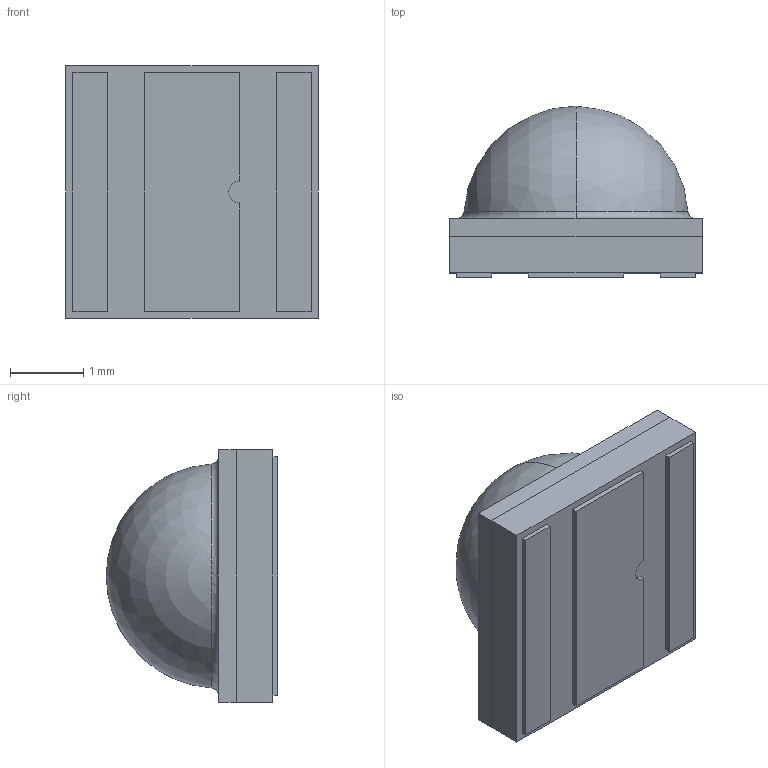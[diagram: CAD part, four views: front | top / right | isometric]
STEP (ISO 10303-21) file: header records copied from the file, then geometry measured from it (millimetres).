
FILE_DESCRIPTION (( 'STEP AP203' ), '1' );
FILE_NAME ('XE 730nm & XF 660nm & XG 660nm眵昜桽隴.STEP', '2024-01-18T06:58:24', ( '' ), ( '' ), 'SwSTEP 2.0', 'SolidWorks 2016', '' );
FILE_SCHEMA (( 'CONFIG_CONTROL_DESIGN' ));
Length unit declared in the file: millimetre
Products named in the file (1): XE 730nm & XF 660nm & XG 660nm眵昜桽隴
Bounding box: 3.45 x 2.34 x 3.45 mm (x, y, z)
Volume: 16.9 mm3; surface area: 66.4 mm2
Topology: 2 solids, 2 shells, 33 faces, 74 edges, 49 vertices
Faces by surface type: plane 28, torus 2, sphere 2, cylinder 1
Entity records: 985 total; most frequent: CARTESIAN_POINT 157, DIRECTION 152, ORIENTED_EDGE 148, EDGE_CURVE 74, VECTOR 64, LINE 64, VERTEX_POINT 49, AXIS2_PLACEMENT_3D 44
